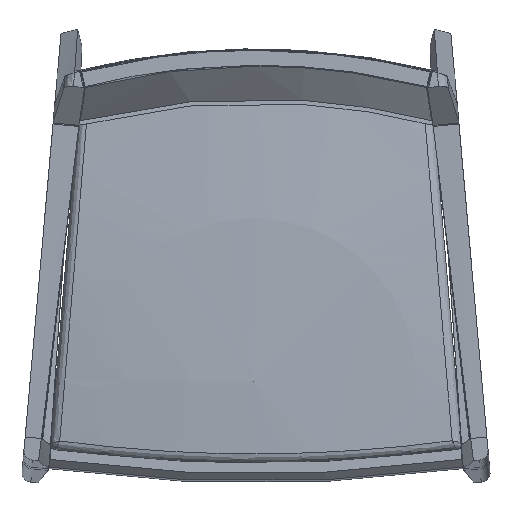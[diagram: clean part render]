
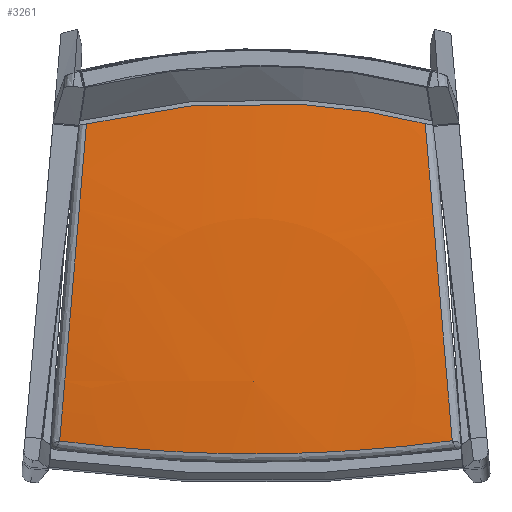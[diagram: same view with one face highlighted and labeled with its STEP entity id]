
A CAD part, top view. The second image highlights one B-rep face of the part: STEP entity #3261.
In plain terms, the highlighted spherical face has radius 3039.64 mm.
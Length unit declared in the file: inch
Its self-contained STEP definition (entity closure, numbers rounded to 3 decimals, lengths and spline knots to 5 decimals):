
#108=CIRCLE('',#3498,119.67089);
#136=SPHERICAL_SURFACE('',#3497,119.67089);
#238=FACE_OUTER_BOUND('',#445,.T.);
#445=EDGE_LOOP('',(#2200,#2201,#2202,#2203,#2204,#2205,#2206,#2207,#2208));
#1115=B_SPLINE_CURVE_WITH_KNOTS('',3,(#4371,#4372,#4373,#4374,#4375),
 .UNSPECIFIED.,.F.,.F.,(4,1,4),(0.43653,9.22132,10.57898),
 .UNSPECIFIED.);
#1116=B_SPLINE_CURVE_WITH_KNOTS('',3,(#4377,#4378,#4379,#4380),
 .UNSPECIFIED.,.F.,.F.,(4,4),(0.32272,17.71626),
 .UNSPECIFIED.);
#1117=B_SPLINE_CURVE_WITH_KNOTS('',3,(#4382,#4383,#4384,#4385,#4386,#4387,
#4388),.UNSPECIFIED.,.F.,.F.,(4,3,4),(-0.00002,4.40806,
8.72227),.UNSPECIFIED.);
#1118=B_SPLINE_CURVE_WITH_KNOTS('',3,(#4390,#4391,#4392,#4393),
 .UNSPECIFIED.,.F.,.F.,(4,4),(0.33312,9.05583),
 .UNSPECIFIED.);
#1119=B_SPLINE_CURVE_WITH_KNOTS('',3,(#4395,#4396,#4397,#4398),
 .UNSPECIFIED.,.F.,.F.,(4,4),(3.54053,17.84243),
 .UNSPECIFIED.);
#1120=B_SPLINE_CURVE_WITH_KNOTS('',3,(#4402,#4403,#4404,#4405),
 .UNSPECIFIED.,.F.,.F.,(4,4),(0.4418,3.54053),
 .UNSPECIFIED.);
#1121=B_SPLINE_CURVE_WITH_KNOTS('',3,(#4406,#4407,#4408,#4409,#4410),
 .UNSPECIFIED.,.F.,.F.,(4,1,4),(10.57898,16.30421,20.7211),
 .UNSPECIFIED.);
#1345=VERTEX_POINT('',#4369);
#1346=VERTEX_POINT('',#4370);
#1347=VERTEX_POINT('',#4376);
#1348=VERTEX_POINT('',#4381);
#1349=VERTEX_POINT('',#4389);
#1350=VERTEX_POINT('',#4394);
#1351=VERTEX_POINT('',#4399);
#1352=VERTEX_POINT('',#4401);
#1684=EDGE_CURVE('',#1345,#1346,#1115,.T.);
#1685=EDGE_CURVE('',#1347,#1345,#1116,.T.);
#1686=EDGE_CURVE('',#1348,#1347,#1117,.T.);
#1687=EDGE_CURVE('',#1349,#1348,#1118,.T.);
#1688=EDGE_CURVE('',#1350,#1349,#1119,.T.);
#1689=EDGE_CURVE('',#1351,#1350,#108,.T.);
#1690=EDGE_CURVE('',#1352,#1350,#1120,.T.);
#1691=EDGE_CURVE('',#1346,#1352,#1121,.T.);
#2200=ORIENTED_EDGE('',*,*,#1684,.F.);
#2201=ORIENTED_EDGE('',*,*,#1685,.F.);
#2202=ORIENTED_EDGE('',*,*,#1686,.F.);
#2203=ORIENTED_EDGE('',*,*,#1687,.F.);
#2204=ORIENTED_EDGE('',*,*,#1688,.F.);
#2205=ORIENTED_EDGE('',*,*,#1689,.F.);
#2206=ORIENTED_EDGE('',*,*,#1689,.T.);
#2207=ORIENTED_EDGE('',*,*,#1690,.F.);
#2208=ORIENTED_EDGE('',*,*,#1691,.F.);
#3261=ADVANCED_FACE('',(#238),#136,.T.);
#3497=AXIS2_PLACEMENT_3D('',#4368,#3708,#3709);
#3498=AXIS2_PLACEMENT_3D('',#4400,#3710,#3711);
#3708=DIRECTION('center_axis',(0.,0.,1.));
#3709=DIRECTION('ref_axis',(1.,0.,0.));
#3710=DIRECTION('center_axis',(0.,-1.,0.));
#3711=DIRECTION('ref_axis',(-1.,0.,0.));
#4368=CARTESIAN_POINT('Origin',(-0.148,5.22941,-102.05401));
#4369=CARTESIAN_POINT('',(10.13121,2.14576,17.13472));
#4370=CARTESIAN_POINT('',(-0.01219,1.46918,17.55772));
#4371=CARTESIAN_POINT('Ctrl Pts',(10.13116,2.14587,17.13472));
#4372=CARTESIAN_POINT('Ctrl Pts',(7.22621,1.7588,17.37528));
#4373=CARTESIAN_POINT('Ctrl Pts',(3.83713,1.50219,17.53506));
#4374=CARTESIAN_POINT('Ctrl Pts',(0.44225,1.46954,17.55722));
#4375=CARTESIAN_POINT('Ctrl Pts',(-0.01219,1.46918,17.55772));
#4376=CARTESIAN_POINT('',(8.6528,19.52007,16.4342));
#4377=CARTESIAN_POINT('Ctrl Pts',(8.65244,19.5195,16.43426));
#4378=CARTESIAN_POINT('Ctrl Pts',(9.14401,13.75577,17.09301));
#4379=CARTESIAN_POINT('Ctrl Pts',(9.63903,7.9439,17.32733));
#4380=CARTESIAN_POINT('Ctrl Pts',(10.13157,2.1459,17.1347));
#4381=CARTESIAN_POINT('',(-0.0217,20.55674,16.6312));
#4382=CARTESIAN_POINT('Ctrl Pts',(-0.0217,20.55674,16.6312));
#4383=CARTESIAN_POINT('Ctrl Pts',(1.45384,20.55759,16.62958));
#4384=CARTESIAN_POINT('Ctrl Pts',(2.92935,20.46885,16.61184));
#4385=CARTESIAN_POINT('Ctrl Pts',(4.39393,20.29185,16.57824));
#4386=CARTESIAN_POINT('Ctrl Pts',(5.82733,20.11861,16.54536));
#4387=CARTESIAN_POINT('Ctrl Pts',(7.25025,19.86083,16.49728));
#4388=CARTESIAN_POINT('Ctrl Pts',(8.65249,19.5197,16.43423));
#4389=CARTESIAN_POINT('',(-8.69479,19.51192,16.45375));
#4390=CARTESIAN_POINT('Ctrl Pts',(-8.69453,19.51197,16.45375));
#4391=CARTESIAN_POINT('Ctrl Pts',(-5.86069,20.20409,16.57478));
#4392=CARTESIAN_POINT('Ctrl Pts',(-2.94135,20.55584,16.63455));
#4393=CARTESIAN_POINT('Ctrl Pts',(-0.0217,20.55674,
16.6312));
#4394=CARTESIAN_POINT('',(-9.89704,5.22941,17.21914));
#4395=CARTESIAN_POINT('Ctrl Pts',(-9.89704,5.22941,17.21914));
#4396=CARTESIAN_POINT('Ctrl Pts',(-9.49642,9.99988,17.25184));
#4397=CARTESIAN_POINT('Ctrl Pts',(-9.09479,14.77213,16.99624));
#4398=CARTESIAN_POINT('Ctrl Pts',(-8.69502,19.51174,16.45374));
#4399=CARTESIAN_POINT('',(-0.148,5.22941,17.61688));
#4400=CARTESIAN_POINT('Origin',(-0.148,5.22941,-102.05401));
#4401=CARTESIAN_POINT('',(-10.15727,2.12921,17.15725));
#4402=CARTESIAN_POINT('Ctrl Pts',(-10.15727,2.12921,17.15726));
#4403=CARTESIAN_POINT('Ctrl Pts',(-10.07059,3.1623,17.19143));
#4404=CARTESIAN_POINT('Ctrl Pts',(-9.98384,4.19581,17.21205));
#4405=CARTESIAN_POINT('Ctrl Pts',(-9.89704,5.22941,17.21914));
#4406=CARTESIAN_POINT('Ctrl Pts',(-0.01219,1.46918,17.55772));
#4407=CARTESIAN_POINT('Ctrl Pts',(-1.92857,1.46764,17.55983));
#4408=CARTESIAN_POINT('Ctrl Pts',(-5.32359,1.59118,17.48595));
#4409=CARTESIAN_POINT('Ctrl Pts',(-8.69605,1.93718,17.27494));
#4410=CARTESIAN_POINT('Ctrl Pts',(-10.15727,2.12921,17.15725));
